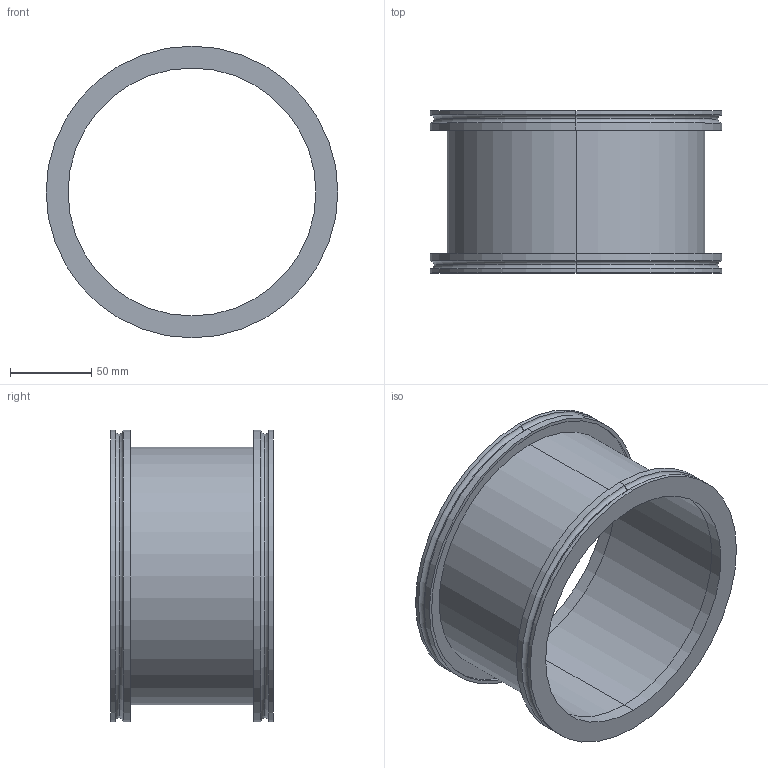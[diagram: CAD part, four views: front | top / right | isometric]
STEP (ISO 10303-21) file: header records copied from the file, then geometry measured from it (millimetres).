
FILE_DESCRIPTION (( 'STEP AP214' ), '1' );
FILE_NAME ('W4ZS160.STEP', '2020-09-29T14:05:55', ( '' ), ( '' ), 'SwSTEP 2.0', 'SolidWorks 2020', '' );
FILE_SCHEMA (( 'AUTOMOTIVE_DESIGN' ));
Length unit declared in the file: millimetre
Products named in the file (1): W4ZS160
Bounding box: 180 x 100 x 180 mm (x, y, z)
Volume: 252352.7 mm3; surface area: 142064.2 mm2
Topology: 3 solids, 3 shells, 42 faces, 84 edges, 52 vertices
Faces by surface type: cylinder 24, plane 10, torus 8
Entity records: 1176 total; most frequent: DIRECTION 230, CARTESIAN_POINT 179, ORIENTED_EDGE 168, AXIS2_PLACEMENT_3D 103, EDGE_CURVE 84, CIRCLE 60, EDGE_LOOP 52, VERTEX_POINT 52
